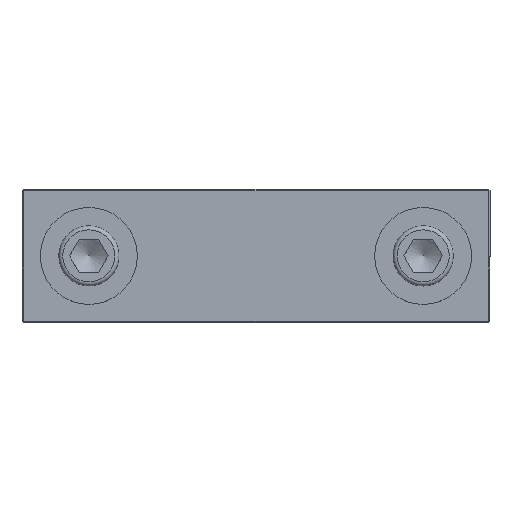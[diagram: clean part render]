
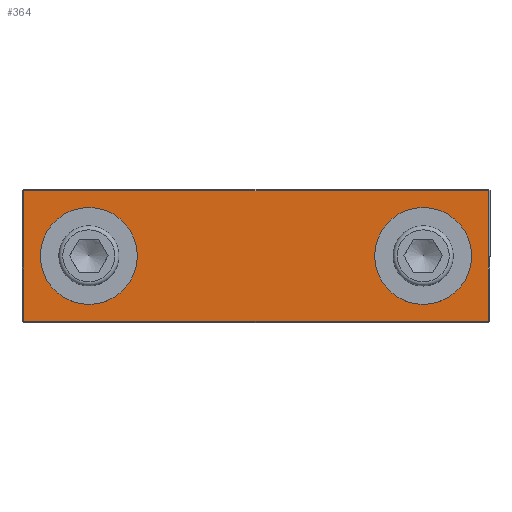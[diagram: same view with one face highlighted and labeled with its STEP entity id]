
A CAD part, top view. The second image highlights one B-rep face of the part: STEP entity #364.
In plain terms, the highlighted planar face has unit normal (0, 0, 1).
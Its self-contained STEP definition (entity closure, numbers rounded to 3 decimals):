
#299=CARTESIAN_POINT('',(57.0,0.,6.));
#300=VERTEX_POINT('',#299);
#301=CARTESIAN_POINT('',(50.0,0.0,6.));
#302=DIRECTION('',(0.0,0.0,1.0));
#303=DIRECTION('',(-1.0,0.0,0.0));
#304=AXIS2_PLACEMENT_3D('',#301,#302,#303);
#305=CIRCLE('',#304,7.);
#306=EDGE_CURVE('',#300,#300,#305,.T.);
#311=CARTESIAN_POINT('',(0.,0.,6.));
#312=DIRECTION('',(0.0,0.0,1.0));
#313=DIRECTION('',(1.0,0.0,0.0));
#314=AXIS2_PLACEMENT_3D('',#311,#312,#313);
#315=PLANE('',#314);
#316=CARTESIAN_POINT('',(69.5,-19.5,6.));
#317=VERTEX_POINT('',#316);
#318=CARTESIAN_POINT('',(-69.5,-19.5,6.));
#319=VERTEX_POINT('',#318);
#320=CARTESIAN_POINT('',(69.5,-19.5,6.));
#321=DIRECTION('',(-1.0,0.0,0.0));
#322=VECTOR('',#321,139.0);
#323=LINE('',#320,#322);
#324=EDGE_CURVE('',#317,#319,#323,.T.);
#325=ORIENTED_EDGE('',*,*,#324,.F.);
#326=CARTESIAN_POINT('',(69.5,19.5,6.));
#327=VERTEX_POINT('',#326);
#328=CARTESIAN_POINT('',(69.5,19.5,6.));
#329=DIRECTION('',(0.0,-1.0,0.0));
#330=VECTOR('',#329,39.);
#331=LINE('',#328,#330);
#332=EDGE_CURVE('',#327,#317,#331,.T.);
#333=ORIENTED_EDGE('',*,*,#332,.F.);
#334=CARTESIAN_POINT('',(-69.5,19.5,6.));
#335=VERTEX_POINT('',#334);
#336=CARTESIAN_POINT('',(-69.5,19.5,6.));
#337=DIRECTION('',(1.0,0.0,0.0));
#338=VECTOR('',#337,139.0);
#339=LINE('',#336,#338);
#340=EDGE_CURVE('',#335,#327,#339,.T.);
#341=ORIENTED_EDGE('',*,*,#340,.F.);
#342=CARTESIAN_POINT('',(-69.5,-19.5,6.));
#343=DIRECTION('',(0.0,1.0,0.0));
#344=VECTOR('',#343,39.0);
#345=LINE('',#342,#344);
#346=EDGE_CURVE('',#319,#335,#345,.T.);
#347=ORIENTED_EDGE('',*,*,#346,.F.);
#348=EDGE_LOOP('',(#325,#333,#341,#347));
#349=FACE_OUTER_BOUND('',#348,.T.);
#350=CARTESIAN_POINT('',(-43.0,0.,6.));
#351=VERTEX_POINT('',#350);
#352=CARTESIAN_POINT('',(-50.0,0.0,6.));
#353=DIRECTION('',(0.0,0.0,1.0));
#354=DIRECTION('',(-1.0,0.0,0.0));
#355=AXIS2_PLACEMENT_3D('',#352,#353,#354);
#356=CIRCLE('',#355,7.);
#357=EDGE_CURVE('',#351,#351,#356,.T.);
#358=ORIENTED_EDGE('',*,*,#357,.F.);
#359=EDGE_LOOP('',(#358));
#360=FACE_BOUND('',#359,.T.);
#361=ORIENTED_EDGE('',*,*,#306,.F.);
#362=EDGE_LOOP('',(#361));
#363=FACE_BOUND('',#362,.T.);
#364=ADVANCED_FACE('',(#349,#360,#363),#315,.T.);
